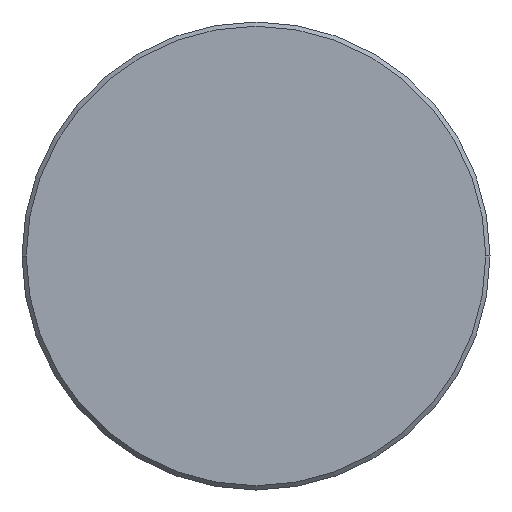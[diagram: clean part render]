
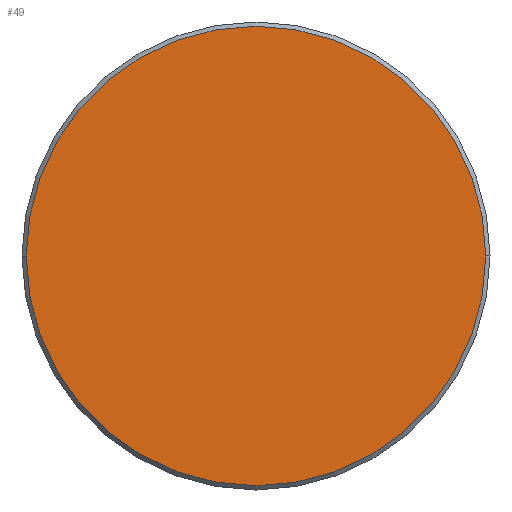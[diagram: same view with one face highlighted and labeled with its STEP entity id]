
A CAD part, left-side view. The second image highlights one B-rep face of the part: STEP entity #49.
In plain terms, the highlighted planar face has unit normal (-1, 0, 0).
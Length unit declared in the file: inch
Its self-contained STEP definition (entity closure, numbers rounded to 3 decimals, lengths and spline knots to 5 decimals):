
#1 = DIRECTION ( 'NONE',  ( -1., 0., 0. ) ) ;
#4 = VERTEX_POINT ( 'NONE', #57 ) ;
#11 = EDGE_LOOP ( 'NONE', ( #322, #216 ) ) ;
#21 = AXIS2_PLACEMENT_3D ( 'NONE', #214, #1, #131 ) ;
#47 = FACE_OUTER_BOUND ( 'NONE', #11, .T. ) ;
#49 = ADVANCED_FACE ( 'NONE', ( #47 ), #324, .T. ) ;
#57 = CARTESIAN_POINT ( 'NONE',  ( 0., -0.21475, 0. ) ) ;
#65 = DIRECTION ( 'NONE',  ( -1., 0., 0. ) ) ;
#66 = EDGE_CURVE ( 'NONE', #342, #4, #179, .T. ) ;
#106 = AXIS2_PLACEMENT_3D ( 'NONE', #332, #115, #305 ) ;
#115 = DIRECTION ( 'NONE',  ( -1., 0., 0. ) ) ;
#120 = CARTESIAN_POINT ( 'NONE',  ( 0., 0.21475, 0. ) ) ;
#128 = AXIS2_PLACEMENT_3D ( 'NONE', #218, #65, #244 ) ;
#131 = DIRECTION ( 'NONE',  ( 0., -1., 0. ) ) ;
#133 = CIRCLE ( 'NONE', #106, 0.21475 ) ;
#179 = CIRCLE ( 'NONE', #128, 0.21475 ) ;
#210 = EDGE_CURVE ( 'NONE', #4, #342, #133, .T. ) ;
#214 = CARTESIAN_POINT ( 'NONE',  ( 0., 0., 0. ) ) ;
#216 = ORIENTED_EDGE ( 'NONE', *, *, #210, .T. ) ;
#218 = CARTESIAN_POINT ( 'NONE',  ( 0., 0., 0. ) ) ;
#244 = DIRECTION ( 'NONE',  ( 0., -1., 0. ) ) ;
#305 = DIRECTION ( 'NONE',  ( 0., -1., 0. ) ) ;
#322 = ORIENTED_EDGE ( 'NONE', *, *, #66, .T. ) ;
#324 = PLANE ( 'NONE',  #21 ) ;
#332 = CARTESIAN_POINT ( 'NONE',  ( 0., 0., 0. ) ) ;
#342 = VERTEX_POINT ( 'NONE', #120 ) ;
